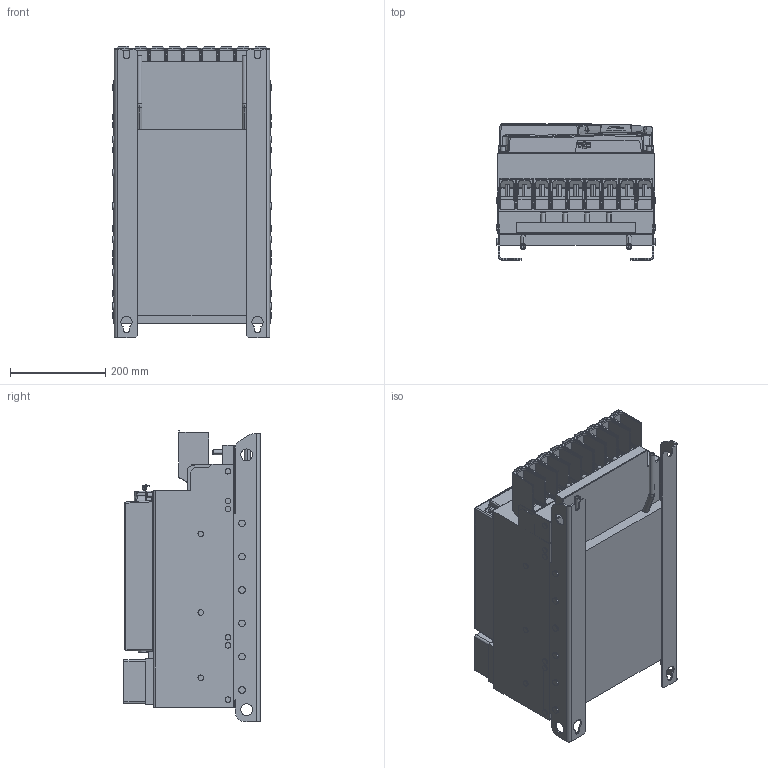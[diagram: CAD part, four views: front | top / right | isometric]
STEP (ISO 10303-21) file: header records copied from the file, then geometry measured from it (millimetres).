
FILE_DESCRIPTION (( 'STEP AP214' ), '1' );
FILE_NAME ('F6-7TW0-A010.STEP', '2021-02-26T13:56:00', ( '' ), ( '' ), 'SwSTEP 2.0', 'SolidWorks 2019', '' );
FILE_SCHEMA (( 'AUTOMOTIVE_DESIGN' ));
Length unit declared in the file: millimetre
Products named in the file (13): 10061504_000_Gehеsebaugruppe ohne L’terkarte; F6-7TW0-A010; 10044643_000_Kundenmodell; 10060724_000_ Leistungsteil F6-7 TW0 (Kundenmodell); 10059761_000; 10061522_000; 10061503_000; 10059765_000; 10045475_000_Geh„usebaugruppe F6-7 (Kundenmodell); 10061629_000; 10059764_000_Blindabdeckung (Kundenmodell); 10043622_000_70F6 Klemme (Kundenmodell); 10061502_000_Deckel (Kundenmodell)
Assembly tree (12 placements, depth 4):
  F6-7TW0-A010
    10060724_000_ Leistungsteil F6-7 TW0 (Kundenmodell)
      10043622_000_70F6 Klemme (Kundenmodell)
        10061522_000
      10061629_000
    10045475_000_Geh„usebaugruppe F6-7 (Kundenmodell)
      10061502_000_Deckel (Kundenmodell)
        10061503_000
      10061504_000_Gehеsebaugruppe ohne L’terkarte
    10044643_000_Kundenmodell
      10059764_000_Blindabdeckung (Kundenmodell)
        10059765_000
      10059761_000
Bounding box: 335.4 x 285.9 x 611.76 mm (x, y, z)
Volume: 40116213.1 mm3; surface area: 2135896.1 mm2
Topology: 12 solids, 13 shells, 3163 faces, 8059 edges, 4935 vertices
Faces by surface type: plane 1614, cylinder 946, bspline 278, sphere 172, torus 91, cone 62
Entity records: 101725 total; most frequent: CARTESIAN_POINT 27460, ORIENTED_EDGE 15896, DIRECTION 14635, EDGE_CURVE 7948, VECTOR 5109, LINE 5109, VERTEX_POINT 4932, AXIS2_PLACEMENT_3D 4763
